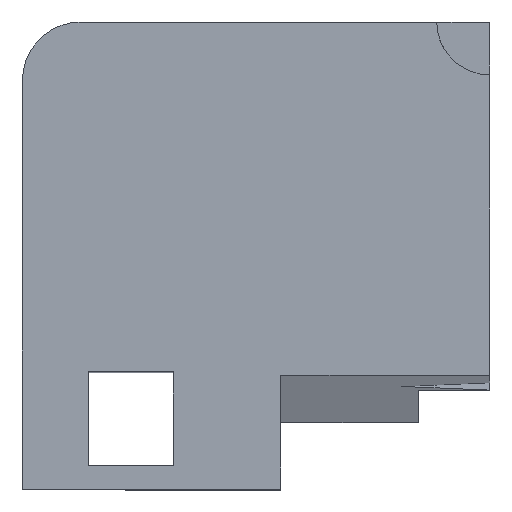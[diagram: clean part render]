
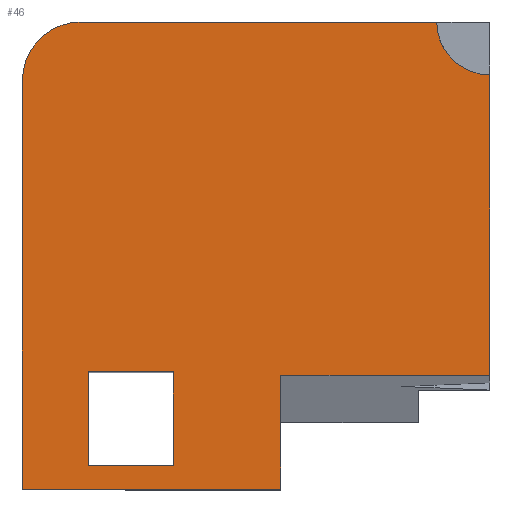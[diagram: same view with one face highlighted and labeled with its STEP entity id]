
A CAD part, top view. The second image highlights one B-rep face of the part: STEP entity #46.
In plain terms, the highlighted planar face has unit normal (0, 0, 1).
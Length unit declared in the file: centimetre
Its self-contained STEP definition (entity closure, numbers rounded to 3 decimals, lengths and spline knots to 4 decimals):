
#22 = VERTEX_POINT ( 'NONE', #937 ) ;
#26 = CARTESIAN_POINT ( 'NONE',  ( 0., 0., 1000. ) ) ;
#28 = ORIENTED_EDGE ( 'NONE', *, *, #58, .T. ) ;
#37 = VECTOR ( 'NONE', #543, 100. ) ;
#40 = CARTESIAN_POINT ( 'NONE',  ( 553.1261, 0., 1000. ) ) ;
#45 = FACE_BOUND ( 'NONE', #547, .T. ) ;
#46 = ADVANCED_FACE ( 'NONE', ( #45, #612 ), #873, .T. ) ;
#58 = EDGE_CURVE ( 'NONE', #571, #117, #691, .T. ) ;
#72 = VERTEX_POINT ( 'NONE', #708 ) ;
#74 = ORIENTED_EDGE ( 'NONE', *, *, #315, .F. ) ;
#82 = LINE ( 'NONE', #1009, #415 ) ;
#89 = CARTESIAN_POINT ( 'NONE',  ( 0., 0., 1000. ) ) ;
#107 = EDGE_CURVE ( 'NONE', #931, #696, #1042, .T. ) ;
#111 = CARTESIAN_POINT ( 'NONE',  ( 553.1261, 243.9424, 1000. ) ) ;
#112 = VERTEX_POINT ( 'NONE', #40 ) ;
#115 = ORIENTED_EDGE ( 'NONE', *, *, #232, .F. ) ;
#117 = VERTEX_POINT ( 'NONE', #299 ) ;
#118 = CARTESIAN_POINT ( 'NONE',  ( 553.1261, 243.9424, 1000. ) ) ;
#125 = ORIENTED_EDGE ( 'NONE', *, *, #107, .T. ) ;
#126 = DIRECTION ( 'NONE',  ( 1., 0., 0. ) ) ;
#141 = EDGE_CURVE ( 'NONE', #22, #400, #292, .T. ) ;
#148 = EDGE_CURVE ( 'NONE', #696, #22, #548, .T. ) ;
#152 = LINE ( 'NONE', #972, #395 ) ;
#161 = ORIENTED_EDGE ( 'NONE', *, *, #1006, .F. ) ;
#198 = DIRECTION ( 'NONE',  ( 1., 0., 0. ) ) ;
#199 = ORIENTED_EDGE ( 'NONE', *, *, #356, .T. ) ;
#219 = CARTESIAN_POINT ( 'NONE',  ( 0., 1000., 1000. ) ) ;
#221 = DIRECTION ( 'NONE',  ( 0., 0., 1. ) ) ;
#224 = CARTESIAN_POINT ( 'NONE',  ( 125.5176, 874.4824, 1000. ) ) ;
#232 = EDGE_CURVE ( 'NONE', #905, #72, #152, .T. ) ;
#249 = AXIS2_PLACEMENT_3D ( 'NONE', #368, #960, #126 ) ;
#280 = CARTESIAN_POINT ( 'NONE',  ( 140.606, 51.4027, 1000. ) ) ;
#292 = LINE ( 'NONE', #459, #37 ) ;
#295 = VECTOR ( 'NONE', #304, 100. ) ;
#299 = CARTESIAN_POINT ( 'NONE',  ( 1000., 243.9424, 1000. ) ) ;
#304 = DIRECTION ( 'NONE',  ( 1., 0., 0. ) ) ;
#315 = EDGE_CURVE ( 'NONE', #571, #112, #574, .T. ) ;
#356 = EDGE_CURVE ( 'NONE', #117, #818, #82, .T. ) ;
#368 = CARTESIAN_POINT ( 'NONE',  ( 0., 0., 1000. ) ) ;
#395 = VECTOR ( 'NONE', #722, 100. ) ;
#398 = CIRCLE ( 'NONE', #1067, 113.0686 ) ;
#400 = VERTEX_POINT ( 'NONE', #89 ) ;
#406 = CARTESIAN_POINT ( 'NONE',  ( 322.5744, 250.9387, 1000. ) ) ;
#415 = VECTOR ( 'NONE', #909, 100. ) ;
#418 = CARTESIAN_POINT ( 'NONE',  ( 1000., 886.9314, 1000. ) ) ;
#426 = VECTOR ( 'NONE', #198, 100. ) ;
#431 = ORIENTED_EDGE ( 'NONE', *, *, #141, .T. ) ;
#459 = CARTESIAN_POINT ( 'NONE',  ( 0., 1000., 1000. ) ) ;
#462 = AXIS2_PLACEMENT_3D ( 'NONE', #224, #870, #616 ) ;
#466 = EDGE_CURVE ( 'NONE', #498, #646, #672, .T. ) ;
#475 = ORIENTED_EDGE ( 'NONE', *, *, #541, .F. ) ;
#498 = VERTEX_POINT ( 'NONE', #935 ) ;
#514 = VECTOR ( 'NONE', #783, 100. ) ;
#539 = LINE ( 'NONE', #953, #980 ) ;
#541 = EDGE_CURVE ( 'NONE', #72, #498, #785, .T. ) ;
#543 = DIRECTION ( 'NONE',  ( 0., -1., 0. ) ) ;
#547 = EDGE_LOOP ( 'NONE', ( #115, #578, #654, #475 ) ) ;
#548 = CIRCLE ( 'NONE', #462, 125.5176 ) ;
#571 = VERTEX_POINT ( 'NONE', #111 ) ;
#574 = LINE ( 'NONE', #903, #912 ) ;
#578 = ORIENTED_EDGE ( 'NONE', *, *, #959, .F. ) ;
#590 = DIRECTION ( 'NONE',  ( 0., 1., 0. ) ) ;
#596 = CARTESIAN_POINT ( 'NONE',  ( 140.606, 250.9387, 1000. ) ) ;
#612 = FACE_OUTER_BOUND ( 'NONE', #690, .T. ) ;
#616 = DIRECTION ( 'NONE',  ( 1., 0., 0. ) ) ;
#624 = DIRECTION ( 'NONE',  ( 1., 0., 0. ) ) ;
#635 = ORIENTED_EDGE ( 'NONE', *, *, #148, .T. ) ;
#643 = CARTESIAN_POINT ( 'NONE',  ( 125.5176, 1000., 1000. ) ) ;
#646 = VERTEX_POINT ( 'NONE', #406 ) ;
#654 = ORIENTED_EDGE ( 'NONE', *, *, #466, .F. ) ;
#672 = LINE ( 'NONE', #1001, #794 ) ;
#690 = EDGE_LOOP ( 'NONE', ( #161, #125, #635, #431, #823, #74, #28, #199 ) ) ;
#691 = LINE ( 'NONE', #118, #295 ) ;
#696 = VERTEX_POINT ( 'NONE', #643 ) ;
#698 = CARTESIAN_POINT ( 'NONE',  ( 1000., 1000., 1000. ) ) ;
#708 = CARTESIAN_POINT ( 'NONE',  ( 140.606, 51.4027, 1000. ) ) ;
#717 = DIRECTION ( 'NONE',  ( 0., -1., 0. ) ) ;
#722 = DIRECTION ( 'NONE',  ( 0., -1., 0. ) ) ;
#771 = CARTESIAN_POINT ( 'NONE',  ( 886.9314, 1000., 1000. ) ) ;
#782 = DIRECTION ( 'NONE',  ( -1., 0., 0. ) ) ;
#783 = DIRECTION ( 'NONE',  ( 1., 0., 0. ) ) ;
#785 = LINE ( 'NONE', #280, #426 ) ;
#794 = VECTOR ( 'NONE', #590, 100. ) ;
#818 = VERTEX_POINT ( 'NONE', #418 ) ;
#823 = ORIENTED_EDGE ( 'NONE', *, *, #968, .T. ) ;
#862 = LINE ( 'NONE', #26, #514 ) ;
#870 = DIRECTION ( 'NONE',  ( 0., 0., 1. ) ) ;
#873 = PLANE ( 'NONE',  #249 ) ;
#903 = CARTESIAN_POINT ( 'NONE',  ( 553.1261, 0., 1000. ) ) ;
#905 = VERTEX_POINT ( 'NONE', #596 ) ;
#906 = VECTOR ( 'NONE', #782, 100. ) ;
#909 = DIRECTION ( 'NONE',  ( 0., 1., 0. ) ) ;
#912 = VECTOR ( 'NONE', #717, 100. ) ;
#931 = VERTEX_POINT ( 'NONE', #771 ) ;
#935 = CARTESIAN_POINT ( 'NONE',  ( 322.5744, 51.4027, 1000. ) ) ;
#937 = CARTESIAN_POINT ( 'NONE',  ( 0., 874.4824, 1000. ) ) ;
#953 = CARTESIAN_POINT ( 'NONE',  ( 140.606, 250.9387, 1000. ) ) ;
#959 = EDGE_CURVE ( 'NONE', #646, #905, #539, .T. ) ;
#960 = DIRECTION ( 'NONE',  ( 0., 0., 1. ) ) ;
#968 = EDGE_CURVE ( 'NONE', #400, #112, #862, .T. ) ;
#972 = CARTESIAN_POINT ( 'NONE',  ( 140.606, 51.4027, 1000. ) ) ;
#980 = VECTOR ( 'NONE', #1030, 100. ) ;
#1001 = CARTESIAN_POINT ( 'NONE',  ( 322.5744, 51.4027, 1000. ) ) ;
#1006 = EDGE_CURVE ( 'NONE', #931, #818, #398, .T. ) ;
#1009 = CARTESIAN_POINT ( 'NONE',  ( 1000., 1000., 1000. ) ) ;
#1030 = DIRECTION ( 'NONE',  ( -1., 0., 0. ) ) ;
#1042 = LINE ( 'NONE', #219, #906 ) ;
#1067 = AXIS2_PLACEMENT_3D ( 'NONE', #698, #221, #624 ) ;
